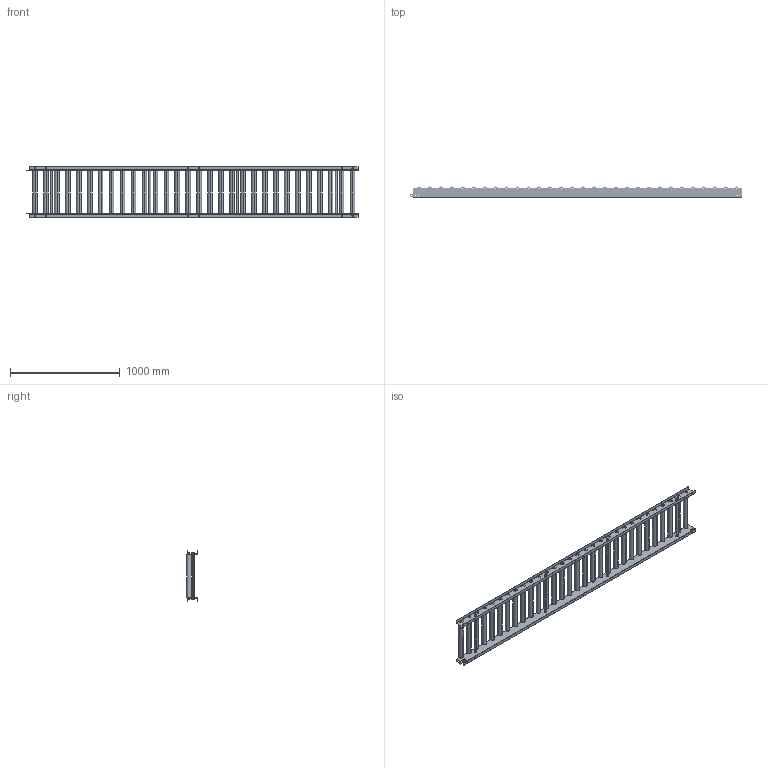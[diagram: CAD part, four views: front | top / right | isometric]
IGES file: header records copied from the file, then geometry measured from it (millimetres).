
Start section: SolidWorks IGES file using analytic representation for surfaces
Global section: file name: C:\Users\0656\Desktop\変換ツール\iges変換\SS-4212.igs; native system: SolidWorks 2023; preprocessor: SolidWorks 2023; author: 0656; date: 240226.153151; units: millimetre
Bounding box: 3031.5 x 100.35 x 460 mm (x, y, z)
Surface area: 4898908.1 mm2 (no closed solid volume)
Topology: 0 solids, 0 shells, 1730 faces, 28416 edges, 28416 vertices
Faces by surface type: bspline 1072, revolution 658
